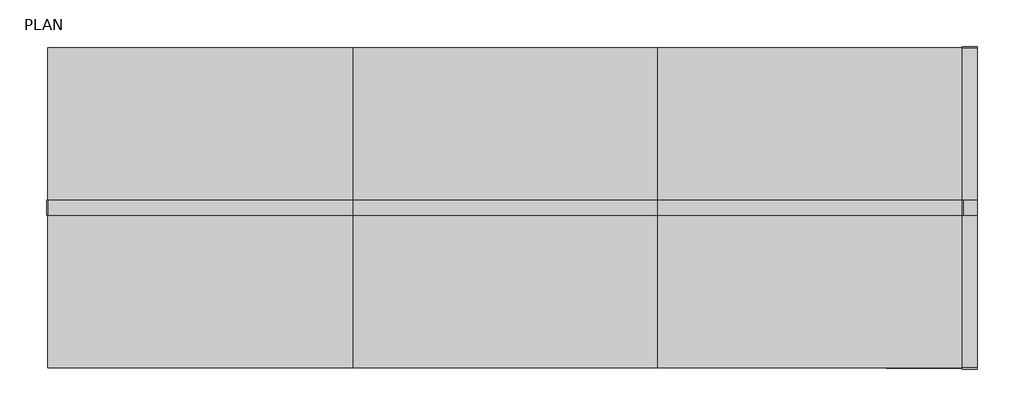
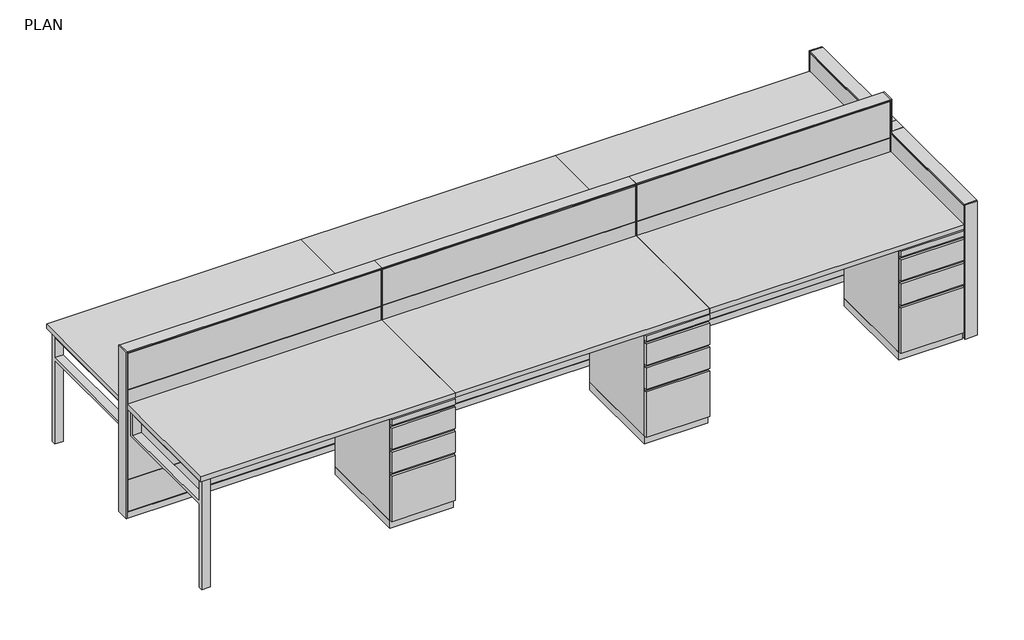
# One storey, incomplete: 18 furniture elements.
"""IFC4 building model written with IfcOpenShell, lengths in millimetres."""

import ifcopenshell
import ifcopenshell.guid

model = None  # the IFC model being written
_history = None  # IfcOwnerHistory: only IFC2X3 demands one
_inside = {}  # id of a spatial element -> (the spatial element, [elements in it])
_under = {}  # id of a project, library or spatial element -> (it, [spatial elements below it])
_declared = {}  # id of a project -> (the project, [libraries it declares])
_typed = {}  # id of a type object -> (the type object, [elements of that type])
_made_of = {}  # id of a material, layer set ... -> (it, [elements and type objects made of it])


def new_model(schema):
    """Start an empty IFC model of exactly this schema.

    Asked for "IFC4X3", IfcOpenShell would pick the latest addendum, in which some entities
    have other attributes; the version numbers below select the first issue.
    IFC2X3 requires an IfcOwnerHistory on every rooted entity: one is made here for all.
    """
    global model, _history
    if schema == "IFC4X3":
        model = ifcopenshell.file(schema_version=(4, 3, 0, 0))
    else:
        model = ifcopenshell.file(schema=schema)
    _inside.clear()
    _under.clear()
    _declared.clear()
    _typed.clear()
    _made_of.clear()
    _history = None
    if model.schema == "IFC2X3":
        org = make("IfcOrganization", Name="unknown")
        user = make(
            "IfcPersonAndOrganization",
            ThePerson=make("IfcPerson", FamilyName="unknown"),
            TheOrganization=org,
        )
        app = make(
            "IfcApplication",
            ApplicationDeveloper=org,
            Version="unknown",
            ApplicationFullName="unknown",
            ApplicationIdentifier="unknown",
        )
        _history = make(
            "IfcOwnerHistory",
            OwningUser=user,
            OwningApplication=app,
            ChangeAction="ADDED",
            CreationDate=0,
        )
    return model


def make(cls, **values):
    """One entity of the class cls with the attributes given. An attribute that is None is left unset."""
    return model.create_entity(
        cls, **{name: value for name, value in values.items() if value is not None}
    )


def rooted(cls, **values):
    """An entity with a GlobalId (a new one), such as an element, a storey or a relation."""
    return make(cls, GlobalId=ifcopenshell.guid.new(), OwnerHistory=_history, **values)


def si_unit(unit_type, name, prefix=None):
    """IfcSIUnit, for example si_unit("LENGTHUNIT", "METRE", prefix="MILLI")."""
    return make("IfcSIUnit", UnitType=unit_type, Prefix=prefix, Name=name)


def assignment(units):
    """IfcUnitAssignment: the units of a project."""
    return None if units is None else make("IfcUnitAssignment", Units=units)


def point(xyz):
    """IfcCartesianPoint."""
    return None if xyz is None else make("IfcCartesianPoint", Coordinates=xyz)


def direction(xyz):
    """IfcDirection."""
    return None if xyz is None else make("IfcDirection", DirectionRatios=xyz)


def frame(location, z_axis=None, x_axis=None):
    """IfcAxis2Placement3D, a coordinate frame: its origin and axes. An axis left out is left unset."""
    return make(
        "IfcAxis2Placement3D",
        Location=point(location),
        Axis=direction(z_axis),
        RefDirection=direction(x_axis),
    )


def frame_2d(location, x_axis=None):
    """IfcAxis2Placement2D, a coordinate frame in the plane: its origin and x axis."""
    return make(
        "IfcAxis2Placement2D", Location=point(location), RefDirection=direction(x_axis)
    )


def origin():
    """The frame at (0, 0, 0) with its axes left unset."""
    return frame((0.0, 0.0, 0.0))


def origin_with_axes():
    """The frame at (0, 0, 0) with the z axis (0, 0, 1) and the x axis (1, 0, 0) written out."""
    return frame((0.0, 0.0, 0.0), z_axis=(0.0, 0.0, 1.0), x_axis=(1.0, 0.0, 0.0))


def place(relative_to, where):
    """IfcLocalPlacement: puts the frame where relative to a parent placement (None: the world)."""
    return make(
        "IfcLocalPlacement", PlacementRelTo=relative_to, RelativePlacement=where
    )


def context(
    kind, dimensions, precision=None, world=None, true_north=None, identifier=None
):
    """IfcGeometricRepresentationContext, for example the 3D "Model" context."""
    return make(
        "IfcGeometricRepresentationContext",
        ContextIdentifier=identifier,
        ContextType=kind,
        CoordinateSpaceDimension=dimensions,
        Precision=precision,
        WorldCoordinateSystem=world,
        TrueNorth=true_north,
    )


def project(units=None, contexts=None):
    """IfcProject with its units and contexts."""
    return rooted(
        "IfcProject",
        Name="project",
        RepresentationContexts=contexts,
        UnitsInContext=assignment(units),
    )


def spatial(cls, under=None, at=None, **own):
    """A site, building, storey or space (cls), placed at a placement, below another one or the project."""
    s = rooted(cls, ObjectPlacement=at, **own)
    if under is not None:
        _under.setdefault(under.id(), (under, []))[1].append(s)
    return s


def polyline(points):
    """IfcPolyline through the points."""
    return make("IfcPolyline", Points=[point(p) for p in points])


def circle_curve(where, radius):
    """IfcCircle in the frame where."""
    return make("IfcCircle", Position=where, Radius=radius)


def trimmed(basis, trim1, trim2, sense, master):
    """IfcTrimmedCurve: the piece of a basis curve between two trims."""
    return make(
        "IfcTrimmedCurve",
        BasisCurve=basis,
        Trim1=trim1,
        Trim2=trim2,
        SenseAgreement=sense,
        MasterRepresentation=master,
    )


def segment(curve, same_sense, transition):
    """IfcCompositeCurveSegment."""
    return make(
        "IfcCompositeCurveSegment",
        Transition=transition,
        SameSense=same_sense,
        ParentCurve=curve,
    )


def composite_curve(segments, self_intersect=None):
    """IfcCompositeCurve: segments joined end to end."""
    return make("IfcCompositeCurve", Segments=segments, SelfIntersect=self_intersect)


def outline(outer, holes=None, kind="AREA"):
    """IfcArbitraryClosedProfileDef: a profile drawn as a closed curve; with holes, ...WithVoids."""
    if holes is None:
        return make("IfcArbitraryClosedProfileDef", ProfileType=kind, OuterCurve=outer)
    return make(
        "IfcArbitraryProfileDefWithVoids",
        ProfileType=kind,
        OuterCurve=outer,
        InnerCurves=holes,
    )


def extrude(swept, where, along, depth):
    """IfcExtrudedAreaSolid: the profile swept, set in the frame where, extruded along a direction by depth."""
    return make(
        "IfcExtrudedAreaSolid",
        SweptArea=swept,
        Position=where,
        ExtrudedDirection=direction(along),
        Depth=depth,
    )


def shape(context_of_items, identifier, shape_type, items):
    """IfcShapeRepresentation: the items that make up one representation, for example the "Body"."""
    return make(
        "IfcShapeRepresentation",
        ContextOfItems=context_of_items,
        RepresentationIdentifier=identifier,
        RepresentationType=shape_type,
        Items=items,
    )


def source(mapping_origin, context_of_items, identifier, shape_type, items):
    """IfcRepresentationMap: a shape defined once, which mapped items show again and again."""
    return make(
        "IfcRepresentationMap",
        MappingOrigin=mapping_origin,
        MappedRepresentation=shape(context_of_items, identifier, shape_type, items),
    )


def transform(
    local_origin,
    x_axis=None,
    y_axis=None,
    z_axis=None,
    scale=None,
    scale2=None,
    scale3=None,
    uniform=True,
):
    """IfcCartesianTransformationOperator3D, or its non-uniform kind. x_axis, y_axis, z_axis: its Axis1, 2, 3."""
    if uniform:
        return make(
            "IfcCartesianTransformationOperator3D",
            Axis1=direction(x_axis),
            Axis2=direction(y_axis),
            LocalOrigin=point(local_origin),
            Scale=scale,
            Axis3=direction(z_axis),
        )
    return make(
        "IfcCartesianTransformationOperator3DnonUniform",
        Axis1=direction(x_axis),
        Axis2=direction(y_axis),
        LocalOrigin=point(local_origin),
        Scale=scale,
        Axis3=direction(z_axis),
        Scale2=scale2,
        Scale3=scale3,
    )


def mapped(mapping_source, mapping_target):
    """IfcMappedItem: shows the shape of a source again, moved by a transform."""
    return make(
        "IfcMappedItem", MappingSource=mapping_source, MappingTarget=mapping_target
    )


def made_of(thing, what):
    """Note that an element or type object is made of a material, layer set ...; save() writes the relation."""
    if what is not None:
        _made_of.setdefault(what.id(), (what, []))[1].append(thing)
    return thing


def element(
    cls,
    number,
    at=None,
    inside=None,
    cuts=None,
    type_object=None,
    material=None,
    context=None,
    identifier="Body",
    shape_type=None,
    held_by="IfcProductDefinitionShape",
    body=None,
    shapes=None,
    **own,
):
    """One element of the class cls, such as IfcWall. Its Tag is "e" and its number.

    at: its placement. inside: the storey or other place that contains it. cuts: it is an
    opening in that element (IfcRelVoidsElement). A single representation is given by context,
    identifier, shape_type and body (its items); several are given by shapes. held_by: the class
    of the entity that holds the representations. save() writes the other relations.
    """
    e = rooted(cls, Tag="e%d" % number, ObjectPlacement=at, **own)
    if body is not None:
        shapes = [shape(context, identifier, shape_type, body)]
    if shapes is not None:
        e.Representation = make(held_by, Representations=shapes)
    if inside is not None:
        _inside.setdefault(inside.id(), (inside, []))[1].append(e)
    if cuts is not None:
        rooted(
            "IfcRelVoidsElement", RelatingBuildingElement=cuts, RelatedOpeningElement=e
        )
    if type_object is not None:
        _typed.setdefault(type_object.id(), (type_object, []))[1].append(e)
    return made_of(e, material)


def aggregate(whole, parts):
    """IfcRelAggregates: a whole, such as a stair, and the parts it consists of."""
    return rooted("IfcRelAggregates", RelatingObject=whole, RelatedObjects=parts)


def save(model, path):
    """Write the relations noted so far, then the file.

    IfcRelAggregates (storeys below a building ...), IfcRelContainedInSpatialStructure (elements
    in a storey), IfcRelDefinesByType, IfcRelAssociatesMaterial and IfcRelDeclares: one each for
    every whole, place, type object, material and project.
    """
    for whole, parts in _under.values():
        aggregate(whole, parts)
    for where, things in _inside.values():
        rooted(
            "IfcRelContainedInSpatialStructure",
            RelatedElements=things,
            RelatingStructure=where,
        )
    for kind, things in _typed.values():
        rooted("IfcRelDefinesByType", RelatedObjects=things, RelatingType=kind)
    for what, things in _made_of.values():
        rooted("IfcRelAssociatesMaterial", RelatedObjects=things, RelatingMaterial=what)
    for by, libraries in _declared.values():
        rooted("IfcRelDeclares", RelatingContext=by, RelatedDefinitions=libraries)
    model.write(path)


def furniture_747a64ef(model_context):
    return source(origin(), model_context, "Body", "SweptSolid", [
        extrude(outline(polyline([(565.15, 358.775), (565.15, 508.0), (571.5, 508.0), (571.5, 493.7125), (584.2, 493.7125), (584.2, 358.775), (565.15, 358.775)])), frame((-190.5, 0.0, 0.0), z_axis=(1.0, 0.0, 0.0), x_axis=(0.0, 1.0, 0.0)), (0.0, 0.0, 1.0), 381.0),
        extrude(outline(polyline([(565.15, 511.175), (565.15, 660.4), (571.5, 660.4), (571.5, 646.1125), (584.2, 646.1125), (584.2, 511.175), (565.15, 511.175)])), frame((-190.5, 0.0, 0.0), z_axis=(1.0, 0.0, 0.0), x_axis=(0.0, 1.0, 0.0)), (0.0, 0.0, 1.0), 381.0),
        extrude(outline(polyline([(565.15, 53.975), (565.15, 355.6), (571.5, 355.6), (571.5, 341.3125), (584.2, 341.3125), (584.2, 53.975), (565.15, 53.975)])), frame((-190.5, 0.0, 0.0), z_axis=(1.0, 0.0, 0.0), x_axis=(0.0, 1.0, 0.0)), (0.0, 0.0, 1.0), 381.0),
        extrude(outline(polyline([(190.5, 0.0), (-190.5, 0.0), (-190.5, 565.15), (190.5, 565.15), (190.5, 0.0)])), origin_with_axes(), (0.0, 0.0, 1.0), 47.625),
        extrude(outline(polyline([(190.5, 584.2), (190.5, 565.15), (-190.5, 565.15), (-190.5, 584.2), (190.5, 584.2)])), frame((0.0, 0.0, 663.575), z_axis=(0.0, 0.0, 1.0), x_axis=(1.0, 0.0, 0.0)), (0.0, 0.0, 1.0), 34.925),
        extrude(outline(polyline([(190.5, 0.0), (-190.5, 0.0), (-190.5, 565.15), (190.5, 565.15), (190.5, 0.0)])), frame((0.0, 0.0, 47.625), z_axis=(0.0, 0.0, 1.0), x_axis=(1.0, 0.0, 0.0)), (0.0, 0.0, 1.0), 650.875),
    ])


def furniture_ff569894(model_context):
    return source(origin(), model_context, "Body", "SweptSolid", [
        extrude(outline(polyline([(-565.15, 358.775), (-584.2, 358.775), (-584.2, 493.7125), (-571.5, 493.7125), (-571.5, 508.0), (-565.15, 508.0), (-565.15, 358.775)])), frame((-190.5, 0.0, 0.0), z_axis=(1.0, 0.0, 0.0), x_axis=(0.0, 1.0, 0.0)), (0.0, 0.0, 1.0), 381.0),
        extrude(outline(polyline([(-565.15, 511.175), (-584.2, 511.175), (-584.2, 646.1125), (-571.5, 646.1125), (-571.5, 660.4), (-565.15, 660.4), (-565.15, 511.175)])), frame((-190.5, 0.0, 0.0), z_axis=(1.0, 0.0, 0.0), x_axis=(0.0, 1.0, 0.0)), (0.0, 0.0, 1.0), 381.0),
        extrude(outline(polyline([(-565.15, 53.975), (-584.2, 53.975), (-584.2, 341.3125), (-571.5, 341.3125), (-571.5, 355.6), (-565.15, 355.6), (-565.15, 53.975)])), frame((-190.5, 0.0, 0.0), z_axis=(1.0, 0.0, 0.0), x_axis=(0.0, 1.0, 0.0)), (0.0, 0.0, 1.0), 381.0),
        extrude(outline(polyline([(190.5, 0.0), (190.5, -565.15), (-190.5, -565.15), (-190.5, 0.0), (190.5, 0.0)])), origin_with_axes(), (0.0, 0.0, 1.0), 47.625),
        extrude(outline(polyline([(190.5, -584.2), (-190.5, -584.2), (-190.5, -565.15), (190.5, -565.15), (190.5, -584.2)])), frame((0.0, 0.0, 663.575), z_axis=(0.0, 0.0, 1.0), x_axis=(1.0, 0.0, 0.0)), (0.0, 0.0, 1.0), 34.925),
        extrude(outline(polyline([(190.5, 0.0), (190.5, -565.15), (-190.5, -565.15), (-190.5, 0.0), (190.5, 0.0)])), frame((0.0, 0.0, 47.625), z_axis=(0.0, 0.0, 1.0), x_axis=(1.0, 0.0, 0.0)), (0.0, 0.0, 1.0), 650.875),
    ])


def furniture_6670dba4(model_context):
    return source(origin(), model_context, "Body", "SweptSolid", [
        extrude(outline(composite_curve([segment(trimmed(circle_curve(frame_2d((-302.3597098, 0.0)), 12.7), [point((-315.0597098, 0.0))], [point((-289.6597098, 0.0))], False, "CARTESIAN"), True, "CONTINUOUS"), segment(trimmed(circle_curve(frame_2d((-302.3597098, 0.0)), 12.7), [point((-289.6597098, 0.0))], [point((-315.0597098, 0.0))], False, "CARTESIAN"), True, "CONTINUOUS")], self_intersect=False)), origin_with_axes(), (0.0, 0.0, 1.0), 12.7),
        extrude(outline(composite_curve([segment(trimmed(circle_curve(frame_2d((307.2402902, 0.0)), 12.7), [point((294.5402902, 0.0))], [point((319.9402902, 0.0))], False, "CARTESIAN"), True, "CONTINUOUS"), segment(trimmed(circle_curve(frame_2d((307.2402902, 0.0)), 12.7), [point((319.9402902, 0.0))], [point((294.5402902, 0.0))], False, "CARTESIAN"), True, "CONTINUOUS")], self_intersect=False)), origin_with_axes(), (0.0, 0.0, 1.0), 12.7),
        extrude(outline(polyline([(-384.9097098, 38.1), (-378.5597098, 38.1), (-378.5597098, -38.1), (-384.9097098, -38.1), (-384.9097098, 38.1)])), frame((0.0, 0.0, 12.7), z_axis=(0.0, 0.0, 1.0), x_axis=(1.0, 0.0, 0.0)), (0.0, 0.0, 1.0), 850.9),
        extrude(outline(polyline([(377.0902902, 38.1), (377.0902902, 25.4), (-372.2097098, 25.4), (-372.2097098, 38.1), (377.0902902, 38.1)])), frame((0.0, 0.0, 53.975), z_axis=(0.0, 0.0, 1.0), x_axis=(1.0, 0.0, 0.0)), (0.0, 0.0, 1.0), 796.925),
        extrude(outline(polyline([(377.0902902, -38.1), (-372.2097098, -38.1), (-372.2097098, -25.4), (377.0902902, -25.4), (377.0902902, -38.1)])), frame((0.0, 0.0, 53.975), z_axis=(0.0, 0.0, 1.0), x_axis=(1.0, 0.0, 0.0)), (0.0, 0.0, 1.0), 796.925),
        extrude(outline(polyline([(383.4402902, 25.4), (383.4402902, -25.4), (-378.5597098, -25.4), (-378.5597098, 25.4), (383.4402902, 25.4)])), frame((0.0, 0.0, 12.7), z_axis=(0.0, 0.0, 1.0), x_axis=(1.0, 0.0, 0.0)), (0.0, 0.0, 1.0), 844.55),
        extrude(outline(polyline([(-378.5597098, -38.1), (-378.5597098, 38.1), (383.4402902, 38.1), (383.4402902, -38.1), (-378.5597098, -38.1)])), frame((0.0, 0.0, 12.7), z_axis=(0.0, 0.0, 1.0), x_axis=(1.0, 0.0, 0.0)), (0.0, 0.0, 1.0), 38.1),
        extrude(outline(polyline([(-378.5597098, -38.1), (-378.5597098, 38.1), (383.4402902, 38.1), (383.4402902, -38.1), (-378.5597098, -38.1)])), frame((0.0, 0.0, 857.25), z_axis=(0.0, 0.0, 1.0), x_axis=(1.0, 0.0, 0.0)), (0.0, 0.0, 1.0), 6.35),
    ])


def furniture_7ad1bea9(model_context):
    return source(origin(), model_context, "Body", "SweptSolid", [
        extrude(outline(composite_curve([segment(trimmed(circle_curve(frame_2d((-302.3597098, 0.0)), 12.7), [point((-315.0597098, 0.0))], [point((-289.6597098, 0.0))], False, "CARTESIAN"), True, "CONTINUOUS"), segment(trimmed(circle_curve(frame_2d((-302.3597098, 0.0)), 12.7), [point((-289.6597098, 0.0))], [point((-315.0597098, 0.0))], False, "CARTESIAN"), True, "CONTINUOUS")], self_intersect=False)), origin_with_axes(), (0.0, 0.0, 1.0), 12.7),
        extrude(outline(composite_curve([segment(trimmed(circle_curve(frame_2d((307.2402902, 0.0)), 12.7), [point((294.5402902, 0.0))], [point((319.9402902, 0.0))], False, "CARTESIAN"), True, "CONTINUOUS"), segment(trimmed(circle_curve(frame_2d((307.2402902, 0.0)), 12.7), [point((319.9402902, 0.0))], [point((294.5402902, 0.0))], False, "CARTESIAN"), True, "CONTINUOUS")], self_intersect=False)), origin_with_axes(), (0.0, 0.0, 1.0), 12.7),
        extrude(outline(polyline([(-384.9097098, -38.1), (-384.9097098, 38.1), (-378.5597098, 38.1), (-378.5597098, -38.1), (-384.9097098, -38.1)])), frame((0.0, 0.0, 12.7), z_axis=(0.0, 0.0, 1.0), x_axis=(1.0, 0.0, 0.0)), (0.0, 0.0, 1.0), 850.9),
        extrude(outline(polyline([(377.0902902, -38.1), (-372.2097098, -38.1), (-372.2097098, -25.4), (377.0902902, -25.4), (377.0902902, -38.1)])), frame((0.0, 0.0, 53.975), z_axis=(0.0, 0.0, 1.0), x_axis=(1.0, 0.0, 0.0)), (0.0, 0.0, 1.0), 796.925),
        extrude(outline(polyline([(377.0902902, 38.1), (377.0902902, 25.4), (-372.2097098, 25.4), (-372.2097098, 38.1), (377.0902902, 38.1)])), frame((0.0, 0.0, 53.975), z_axis=(0.0, 0.0, 1.0), x_axis=(1.0, 0.0, 0.0)), (0.0, 0.0, 1.0), 796.925),
        extrude(outline(polyline([(383.4402902, -25.4), (-378.5597098, -25.4), (-378.5597098, 25.4), (383.4402902, 25.4), (383.4402902, -25.4)])), frame((0.0, 0.0, 12.7), z_axis=(0.0, 0.0, 1.0), x_axis=(1.0, 0.0, 0.0)), (0.0, 0.0, 1.0), 844.55),
        extrude(outline(polyline([(-378.5597098, 38.1), (383.4402902, 38.1), (383.4402902, -38.1), (-378.5597098, -38.1), (-378.5597098, 38.1)])), frame((0.0, 0.0, 12.7), z_axis=(0.0, 0.0, 1.0), x_axis=(1.0, 0.0, 0.0)), (0.0, 0.0, 1.0), 38.1),
        extrude(outline(polyline([(-378.5597098, 38.1), (383.4402902, 38.1), (383.4402902, -38.1), (-378.5597098, -38.1), (-378.5597098, 38.1)])), frame((0.0, 0.0, 857.25), z_axis=(0.0, 0.0, 1.0), x_axis=(1.0, 0.0, 0.0)), (0.0, 0.0, 1.0), 6.35),
    ])


def furniture_aa9343ba(model_context):
    return source(origin(), model_context, "Body", "SweptSolid", [
        extrude(outline(composite_curve([segment(trimmed(circle_curve(frame_2d((-683.3597098, 0.0)), 12.7), [point((-696.0597098, 0.0))], [point((-670.6597098, 0.0))], False, "CARTESIAN"), True, "CONTINUOUS"), segment(trimmed(circle_curve(frame_2d((-683.3597098, 0.0)), 12.7), [point((-670.6597098, 0.0))], [point((-696.0597098, 0.0))], False, "CARTESIAN"), True, "CONTINUOUS")], self_intersect=False)), origin_with_axes(), (0.0, 0.0, 1.0), 12.7),
        extrude(outline(composite_curve([segment(trimmed(circle_curve(frame_2d((688.2402902, 0.0)), 12.7), [point((675.5402902, 0.0))], [point((700.9402902, 0.0))], False, "CARTESIAN"), True, "CONTINUOUS"), segment(trimmed(circle_curve(frame_2d((688.2402902, 0.0)), 12.7), [point((700.9402902, 0.0))], [point((675.5402902, 0.0))], False, "CARTESIAN"), True, "CONTINUOUS")], self_intersect=False)), origin_with_axes(), (0.0, 0.0, 1.0), 12.7),
        extrude(outline(polyline([(758.0902902, 38.1), (758.0902902, 25.4), (-753.2097098, 25.4), (-753.2097098, 38.1), (758.0902902, 38.1)])), frame((0.0, 0.0, 828.675), z_axis=(0.0, 0.0, 1.0), x_axis=(1.0, 0.0, 0.0)), (0.0, 0.0, 1.0), 225.425),
        extrude(outline(polyline([(758.0902902, 38.1), (758.0902902, 25.4), (-753.2097098, 25.4), (-753.2097098, 38.1), (758.0902902, 38.1)])), frame((0.0, 0.0, 257.175), z_axis=(0.0, 0.0, 1.0), x_axis=(1.0, 0.0, 0.0)), (0.0, 0.0, 1.0), 568.325),
        extrude(outline(polyline([(758.0902902, 38.1), (758.0902902, 25.4), (-753.2097098, 25.4), (-753.2097098, 38.1), (758.0902902, 38.1)])), frame((0.0, 0.0, 53.975), z_axis=(0.0, 0.0, 1.0), x_axis=(1.0, 0.0, 0.0)), (0.0, 0.0, 1.0), 200.025),
        extrude(outline(polyline([(758.0902902, -38.1), (-753.2097098, -38.1), (-753.2097098, -25.4), (758.0902902, -25.4), (758.0902902, -38.1)])), frame((0.0, 0.0, 828.675), z_axis=(0.0, 0.0, 1.0), x_axis=(1.0, 0.0, 0.0)), (0.0, 0.0, 1.0), 225.425),
        extrude(outline(polyline([(758.0902902, -38.1), (-753.2097098, -38.1), (-753.2097098, -25.4), (758.0902902, -25.4), (758.0902902, -38.1)])), frame((0.0, 0.0, 257.175), z_axis=(0.0, 0.0, 1.0), x_axis=(1.0, 0.0, 0.0)), (0.0, 0.0, 1.0), 568.325),
        extrude(outline(polyline([(758.0902902, -38.1), (-753.2097098, -38.1), (-753.2097098, -25.4), (758.0902902, -25.4), (758.0902902, -38.1)])), frame((0.0, 0.0, 53.975), z_axis=(0.0, 0.0, 1.0), x_axis=(1.0, 0.0, 0.0)), (0.0, 0.0, 1.0), 200.025),
        extrude(outline(polyline([(764.4402902, 25.4), (764.4402902, -25.4), (-759.5597098, -25.4), (-759.5597098, 25.4), (764.4402902, 25.4)])), frame((0.0, 0.0, 12.7), z_axis=(0.0, 0.0, 1.0), x_axis=(1.0, 0.0, 0.0)), (0.0, 0.0, 1.0), 1047.75),
        extrude(outline(polyline([(-759.5597098, -38.1), (-759.5597098, 38.1), (764.4402902, 38.1), (764.4402902, -38.1), (-759.5597098, -38.1)])), frame((0.0, 0.0, 12.7), z_axis=(0.0, 0.0, 1.0), x_axis=(1.0, 0.0, 0.0)), (0.0, 0.0, 1.0), 38.1),
        extrude(outline(polyline([(-759.5597098, -38.1), (-759.5597098, 38.1), (764.4402902, 38.1), (764.4402902, -38.1), (-759.5597098, -38.1)])), frame((0.0, 0.0, 1060.45), z_axis=(0.0, 0.0, 1.0), x_axis=(1.0, 0.0, 0.0)), (0.0, 0.0, 1.0), 6.35),
    ])


def furniture_3affe85f(model_context):
    return source(origin(), model_context, "Body", "SweptSolid", [
        extrude(outline(composite_curve([segment(trimmed(circle_curve(frame_2d((-683.3597098, 0.0)), 12.7), [point((-696.0597098, 0.0))], [point((-670.6597098, 0.0))], False, "CARTESIAN"), True, "CONTINUOUS"), segment(trimmed(circle_curve(frame_2d((-683.3597098, 0.0)), 12.7), [point((-670.6597098, 0.0))], [point((-696.0597098, 0.0))], False, "CARTESIAN"), True, "CONTINUOUS")], self_intersect=False)), origin_with_axes(), (0.0, 0.0, 1.0), 12.7),
        extrude(outline(composite_curve([segment(trimmed(circle_curve(frame_2d((688.2402902, 0.0)), 12.7), [point((675.5402902, 0.0))], [point((700.9402902, 0.0))], False, "CARTESIAN"), True, "CONTINUOUS"), segment(trimmed(circle_curve(frame_2d((688.2402902, 0.0)), 12.7), [point((700.9402902, 0.0))], [point((675.5402902, 0.0))], False, "CARTESIAN"), True, "CONTINUOUS")], self_intersect=False)), origin_with_axes(), (0.0, 0.0, 1.0), 12.7),
        extrude(outline(polyline([(770.7902902, 38.1), (770.7902902, -38.1), (764.4402902, -38.1), (764.4402902, 38.1), (770.7902902, 38.1)])), frame((0.0, 0.0, 863.6), z_axis=(0.0, 0.0, 1.0), x_axis=(1.0, 0.0, 0.0)), (0.0, 0.0, 1.0), 203.2),
        extrude(outline(polyline([(758.0902902, 38.1), (758.0902902, 25.4), (-753.2097098, 25.4), (-753.2097098, 38.1), (758.0902902, 38.1)])), frame((0.0, 0.0, 828.675), z_axis=(0.0, 0.0, 1.0), x_axis=(1.0, 0.0, 0.0)), (0.0, 0.0, 1.0), 225.425),
        extrude(outline(polyline([(758.0902902, 38.1), (758.0902902, 25.4), (-753.2097098, 25.4), (-753.2097098, 38.1), (758.0902902, 38.1)])), frame((0.0, 0.0, 257.175), z_axis=(0.0, 0.0, 1.0), x_axis=(1.0, 0.0, 0.0)), (0.0, 0.0, 1.0), 568.325),
        extrude(outline(polyline([(758.0902902, 38.1), (758.0902902, 25.4), (-753.2097098, 25.4), (-753.2097098, 38.1), (758.0902902, 38.1)])), frame((0.0, 0.0, 53.975), z_axis=(0.0, 0.0, 1.0), x_axis=(1.0, 0.0, 0.0)), (0.0, 0.0, 1.0), 200.025),
        extrude(outline(polyline([(758.0902902, -38.1), (-753.2097098, -38.1), (-753.2097098, -25.4), (758.0902902, -25.4), (758.0902902, -38.1)])), frame((0.0, 0.0, 828.675), z_axis=(0.0, 0.0, 1.0), x_axis=(1.0, 0.0, 0.0)), (0.0, 0.0, 1.0), 225.425),
        extrude(outline(polyline([(758.0902902, -38.1), (-753.2097098, -38.1), (-753.2097098, -25.4), (758.0902902, -25.4), (758.0902902, -38.1)])), frame((0.0, 0.0, 257.175), z_axis=(0.0, 0.0, 1.0), x_axis=(1.0, 0.0, 0.0)), (0.0, 0.0, 1.0), 568.325),
        extrude(outline(polyline([(758.0902902, -38.1), (-753.2097098, -38.1), (-753.2097098, -25.4), (758.0902902, -25.4), (758.0902902, -38.1)])), frame((0.0, 0.0, 53.975), z_axis=(0.0, 0.0, 1.0), x_axis=(1.0, 0.0, 0.0)), (0.0, 0.0, 1.0), 200.025),
        extrude(outline(polyline([(764.4402902, 25.4), (764.4402902, -25.4), (-759.5597098, -25.4), (-759.5597098, 25.4), (764.4402902, 25.4)])), frame((0.0, 0.0, 12.7), z_axis=(0.0, 0.0, 1.0), x_axis=(1.0, 0.0, 0.0)), (0.0, 0.0, 1.0), 1047.75),
        extrude(outline(polyline([(-759.5597098, -38.1), (-759.5597098, 38.1), (764.4402902, 38.1), (764.4402902, -38.1), (-759.5597098, -38.1)])), frame((0.0, 0.0, 12.7), z_axis=(0.0, 0.0, 1.0), x_axis=(1.0, 0.0, 0.0)), (0.0, 0.0, 1.0), 38.1),
        extrude(outline(polyline([(-759.5597098, -38.1), (-759.5597098, 38.1), (764.4402902, 38.1), (764.4402902, -38.1), (-759.5597098, -38.1)])), frame((0.0, 0.0, 1060.45), z_axis=(0.0, 0.0, 1.0), x_axis=(1.0, 0.0, 0.0)), (0.0, 0.0, 1.0), 6.35),
    ])


def furniture_9dffe39c(model_context):
    return source(origin(), model_context, "Body", "SweptSolid", [
        extrude(outline(composite_curve([segment(trimmed(circle_curve(frame_2d((-683.3597098, 0.0)), 12.7), [point((-696.0597098, 0.0))], [point((-670.6597098, 0.0))], False, "CARTESIAN"), True, "CONTINUOUS"), segment(trimmed(circle_curve(frame_2d((-683.3597098, 0.0)), 12.7), [point((-670.6597098, 0.0))], [point((-696.0597098, 0.0))], False, "CARTESIAN"), True, "CONTINUOUS")], self_intersect=False)), origin_with_axes(), (0.0, 0.0, 1.0), 12.7),
        extrude(outline(composite_curve([segment(trimmed(circle_curve(frame_2d((688.2402902, 0.0)), 12.7), [point((675.5402902, 0.0))], [point((700.9402902, 0.0))], False, "CARTESIAN"), True, "CONTINUOUS"), segment(trimmed(circle_curve(frame_2d((688.2402902, 0.0)), 12.7), [point((700.9402902, 0.0))], [point((675.5402902, 0.0))], False, "CARTESIAN"), True, "CONTINUOUS")], self_intersect=False)), origin_with_axes(), (0.0, 0.0, 1.0), 12.7),
        extrude(outline(polyline([(-765.9097098, 38.1), (-759.5597098, 38.1), (-759.5597098, -38.1), (-765.9097098, -38.1), (-765.9097098, 38.1)])), frame((0.0, 0.0, 12.7), z_axis=(0.0, 0.0, 1.0), x_axis=(1.0, 0.0, 0.0)), (0.0, 0.0, 1.0), 1054.1),
        extrude(outline(polyline([(758.0902902, 38.1), (758.0902902, 25.4), (-753.2097098, 25.4), (-753.2097098, 38.1), (758.0902902, 38.1)])), frame((0.0, 0.0, 828.675), z_axis=(0.0, 0.0, 1.0), x_axis=(1.0, 0.0, 0.0)), (0.0, 0.0, 1.0), 225.425),
        extrude(outline(polyline([(758.0902902, 38.1), (758.0902902, 25.4), (-753.2097098, 25.4), (-753.2097098, 38.1), (758.0902902, 38.1)])), frame((0.0, 0.0, 257.175), z_axis=(0.0, 0.0, 1.0), x_axis=(1.0, 0.0, 0.0)), (0.0, 0.0, 1.0), 568.325),
        extrude(outline(polyline([(758.0902902, 38.1), (758.0902902, 25.4), (-753.2097098, 25.4), (-753.2097098, 38.1), (758.0902902, 38.1)])), frame((0.0, 0.0, 53.975), z_axis=(0.0, 0.0, 1.0), x_axis=(1.0, 0.0, 0.0)), (0.0, 0.0, 1.0), 200.025),
        extrude(outline(polyline([(758.0902902, -38.1), (-753.2097098, -38.1), (-753.2097098, -25.4), (758.0902902, -25.4), (758.0902902, -38.1)])), frame((0.0, 0.0, 828.675), z_axis=(0.0, 0.0, 1.0), x_axis=(1.0, 0.0, 0.0)), (0.0, 0.0, 1.0), 225.425),
        extrude(outline(polyline([(758.0902902, -38.1), (-753.2097098, -38.1), (-753.2097098, -25.4), (758.0902902, -25.4), (758.0902902, -38.1)])), frame((0.0, 0.0, 257.175), z_axis=(0.0, 0.0, 1.0), x_axis=(1.0, 0.0, 0.0)), (0.0, 0.0, 1.0), 568.325),
        extrude(outline(polyline([(758.0902902, -38.1), (-753.2097098, -38.1), (-753.2097098, -25.4), (758.0902902, -25.4), (758.0902902, -38.1)])), frame((0.0, 0.0, 53.975), z_axis=(0.0, 0.0, 1.0), x_axis=(1.0, 0.0, 0.0)), (0.0, 0.0, 1.0), 200.025),
        extrude(outline(polyline([(764.4402902, 25.4), (764.4402902, -25.4), (-759.5597098, -25.4), (-759.5597098, 25.4), (764.4402902, 25.4)])), frame((0.0, 0.0, 12.7), z_axis=(0.0, 0.0, 1.0), x_axis=(1.0, 0.0, 0.0)), (0.0, 0.0, 1.0), 1047.75),
        extrude(outline(polyline([(-759.5597098, -38.1), (-759.5597098, 38.1), (764.4402902, 38.1), (764.4402902, -38.1), (-759.5597098, -38.1)])), frame((0.0, 0.0, 12.7), z_axis=(0.0, 0.0, 1.0), x_axis=(1.0, 0.0, 0.0)), (0.0, 0.0, 1.0), 38.1),
        extrude(outline(polyline([(-759.5597098, -38.1), (-759.5597098, 38.1), (764.4402902, 38.1), (764.4402902, -38.1), (-759.5597098, -38.1)])), frame((0.0, 0.0, 1060.45), z_axis=(0.0, 0.0, 1.0), x_axis=(1.0, 0.0, 0.0)), (0.0, 0.0, 1.0), 6.35),
    ])


def furniture_7622e100(model_context):
    return source(origin(), model_context, "Body", "SweptSolid", [
        extrude(outline(polyline([(0.0, 38.1), (76.2, 38.1), (76.2, -38.1), (0.0, -38.1), (0.0, 38.1)])), frame((0.0, 0.0, 857.25), z_axis=(0.0, 0.0, 1.0), x_axis=(1.0, 0.0, 0.0)), (0.0, 0.0, 1.0), 6.35),
        extrude(outline(polyline([(76.2, 38.1), (76.2, -38.1), (0.0, -38.1), (0.0, 38.1), (76.2, 38.1)])), frame((0.0, 0.0, 12.7), z_axis=(0.0, 0.0, 1.0), x_axis=(1.0, 0.0, 0.0)), (0.0, 0.0, 1.0), 844.55),
    ])


def haworth_worksurface_compose_rectangular_7adb6efa(model_context):
    return source(origin(), model_context, "Body", "SweptSolid", [
        extrude(outline(polyline([(762.0, 381.0), (762.0, -381.0), (-762.0, -381.0), (-762.0, 381.0), (762.0, 381.0)])), frame((0.0, 0.0, 706.4375), z_axis=(0.0, 0.0, 1.0), x_axis=(1.0, 0.0, 0.0)), (0.0, 0.0, 1.0), 30.1625),
    ])


def haworth_worksurface_compose_rectangular_0a25eb7b(model_context):
    return source(origin(), model_context, "Body", "SweptSolid", [
        extrude(outline(polyline([(-701.675, 355.6), (-701.675, -330.2), (-733.425, -330.2), (-733.425, 355.6), (-701.675, 355.6)])), frame((0.0, 0.0, 661.9875), z_axis=(0.0, 0.0, 1.0), x_axis=(1.0, 0.0, 0.0)), (0.0, 0.0, 1.0), 44.45),
        extrude(outline(polyline([(-330.2, 528.6375), (-330.2, 0.0), (-355.6, 0.0), (-355.6, 706.4375), (-330.2, 706.4375), (-330.2, 547.6875), (355.6, 547.6875), (355.6, 706.4375), (381.0, 706.4375), (381.0, 528.6375), (-330.2, 528.6375)])), frame((-742.95, 0.0, 0.0), z_axis=(1.0, 0.0, 0.0), x_axis=(0.0, 1.0, 0.0)), (0.0, 0.0, 1.0), 50.8),
        extrude(outline(polyline([(762.0, 381.0), (762.0, -381.0), (-762.0, -381.0), (-762.0, 381.0), (762.0, 381.0)])), frame((0.0, 0.0, 706.4375), z_axis=(0.0, 0.0, 1.0), x_axis=(1.0, 0.0, 0.0)), (0.0, 0.0, 1.0), 30.1625),
    ])


def haworth_worksurface_compose_rectangular_3adcce5d(model_context):
    return source(origin(), model_context, "Body", "SweptSolid", [
        extrude(outline(polyline([(-701.675, -355.6), (-733.425, -355.6), (-733.425, 330.2), (-701.675, 330.2), (-701.675, -355.6)])), frame((0.0, 0.0, 661.9875), z_axis=(0.0, 0.0, 1.0), x_axis=(1.0, 0.0, 0.0)), (0.0, 0.0, 1.0), 44.45),
        extrude(outline(polyline([(330.2, 528.6375), (-381.0, 528.6375), (-381.0, 706.4375), (-355.6, 706.4375), (-355.6, 547.6875), (330.2, 547.6875), (330.2, 706.4375), (355.6, 706.4375), (355.6, 0.0), (330.2, 0.0), (330.2, 528.6375)])), frame((-742.95, 0.0, 0.0), z_axis=(1.0, 0.0, 0.0), x_axis=(0.0, 1.0, 0.0)), (0.0, 0.0, 1.0), 50.8),
        extrude(outline(polyline([(762.0, -381.0), (-762.0, -381.0), (-762.0, 381.0), (762.0, 381.0), (762.0, -381.0)])), frame((0.0, 0.0, 706.4375), z_axis=(0.0, 0.0, 1.0), x_axis=(1.0, 0.0, 0.0)), (0.0, 0.0, 1.0), 30.1625),
    ])


model = new_model("IFC4")

# Units and contexts
model_context = context("Model", 3, world=origin())
ifc_project = project(units=[si_unit("LENGTHUNIT", "METRE", prefix="MILLI")], contexts=[model_context])

# Site, building, storey
site = spatial("IfcSite", under=ifc_project)
building = spatial("IfcBuilding", under=site)
storey = spatial("IfcBuildingStorey", under=building, Name="PLAN", Elevation=30480.0)

# Furniture
placement = place(None, origin())
furniture_shape = furniture_747a64ef(model_context)
element("IfcFurniture", 1, ObjectType="Haworth_XSeries-Mobile_Pedestal : Box/Box/File 23\" Depth", at=placement, inside=storey, context=model_context, shape_type="MappedRepresentation", body=[
    mapped(furniture_shape, transform((-23385.0649372, -48243.7025493, 30480.0), x_axis=(1.0, 0.0, 0.0), y_axis=(0.0, 1.0, 0.0), z_axis=(0.0, 0.0, 1.0))),
])
element("IfcFurniture", 2, ObjectType="Haworth_XSeries-Mobile_Pedestal : Box/Box/File 23\" Depth", at=placement, inside=storey, context=model_context, shape_type="MappedRepresentation", body=[
    mapped(furniture_shape, transform((-21861.0649372, -48243.7025493, 30480.0), x_axis=(1.0, 0.0, 0.0), y_axis=(0.0, 1.0, 0.0), z_axis=(0.0, 0.0, 1.0))),
])
element("IfcFurniture", 3, ObjectType="Haworth_XSeries-Mobile_Pedestal : Box/Box/File 23\" Depth", at=placement, inside=storey, context=model_context, shape_type="MappedRepresentation", body=[
    mapped(furniture_shape, transform((-20337.0649372, -48243.7025493, 30480.0), x_axis=(1.0, 0.0, 0.0), y_axis=(0.0, 1.0, 0.0), z_axis=(0.0, 0.0, 1.0))),
])
furniture_2_shape = furniture_ff569894(model_context)
element("IfcFurniture", 4, ObjectType="Haworth_XSeries-Mobile_Pedestal : Box/Box/File 23\" Depth", at=placement, inside=storey, context=model_context, shape_type="MappedRepresentation", body=[
    mapped(furniture_2_shape, transform((-23385.0649372, -48675.5025493, 30480.0), x_axis=(1.0, 0.0, 0.0), y_axis=(0.0, 1.0, 0.0), z_axis=(0.0, 0.0, 1.0))),
])
element("IfcFurniture", 5, ObjectType="Haworth_XSeries-Mobile_Pedestal : Box/Box/File 23\" Depth", at=placement, inside=storey, context=model_context, shape_type="MappedRepresentation", body=[
    mapped(furniture_2_shape, transform((-21861.0649372, -48675.5025493, 30480.0), x_axis=(1.0, 0.0, 0.0), y_axis=(0.0, 1.0, 0.0), z_axis=(0.0, 0.0, 1.0))),
])
element("IfcFurniture", 6, ObjectType="Haworth_XSeries-Mobile_Pedestal : Box/Box/File 23\" Depth", at=placement, inside=storey, context=model_context, shape_type="MappedRepresentation", body=[
    mapped(furniture_2_shape, transform((-20337.0649372, -48676.7040683, 30480.0), x_axis=(1.0, 0.0, 0.0), y_axis=(0.0, 1.0, 0.0), z_axis=(0.0, 0.0, 1.0))),
])
furniture_3_shape = furniture_6670dba4(model_context)
element("IfcFurniture", 7, ObjectType="Haworth_Compose-Panel-Solid : 34\" x 30\"", at=placement, inside=storey, context=model_context, shape_type="MappedRepresentation", body=[
    mapped(furniture_3_shape, transform((-20108.4649372, -48881.1428395, 30480.0), x_axis=(0.0, 1.0, 0.0), y_axis=(-1.0, 0.0, 0.0), z_axis=(0.0, 0.0, 1.0))),
])
furniture_4_shape = furniture_7ad1bea9(model_context)
element("IfcFurniture", 8, ObjectType="Haworth_Compose-Panel-Solid : 34\" x 30\"", at=placement, inside=storey, context=model_context, shape_type="MappedRepresentation", body=[
    mapped(furniture_4_shape, transform((-20108.4649372, -48038.0622592, 30480.0), x_axis=(0.0, -1.0, 0.0), y_axis=(1.0, 0.0, 0.0), z_axis=(0.0, 0.0, 1.0))),
])
furniture_5_shape = furniture_aa9343ba(model_context)
element("IfcFurniture", 9, ObjectType="Haworth_Compose-Panel-Solid : 42\" x 60\"", at=placement, inside=storey, context=model_context, shape_type="MappedRepresentation", body=[
    mapped(furniture_5_shape, transform((-22435.0052273, -48459.6025493, 30480.0), x_axis=(1.0, 0.0, 0.0), y_axis=(0.0, 1.0, 0.0), z_axis=(0.0, 0.0, 1.0))),
])
furniture_6_shape = furniture_3affe85f(model_context)
element("IfcFurniture", 10, ObjectType="Haworth_Compose-Panel-Solid : 42\" x 60\"", at=placement, inside=storey, context=model_context, shape_type="MappedRepresentation", body=[
    mapped(furniture_6_shape, transform((-20911.0052273, -48459.6025493, 30480.0), x_axis=(1.0, 0.0, 0.0), y_axis=(0.0, 1.0, 0.0), z_axis=(0.0, 0.0, 1.0))),
])
furniture_7_shape = furniture_9dffe39c(model_context)
element("IfcFurniture", 11, ObjectType="Haworth_Compose-Panel-Solid : 42\" x 60\" Slat Top", at=placement, inside=storey, context=model_context, shape_type="MappedRepresentation", body=[
    mapped(furniture_7_shape, transform((-23959.0052273, -48459.6025493, 30480.0), x_axis=(1.0, 0.0, 0.0), y_axis=(0.0, 1.0, 0.0), z_axis=(0.0, 0.0, 1.0))),
])
furniture_8_shape = furniture_7622e100(model_context)
element("IfcFurniture", 12, ObjectType="Haworth_Compose-Panel_Accessories-Post : 34\" High - 3-Way Intersection", at=placement, inside=storey, context=model_context, shape_type="MappedRepresentation", body=[
    mapped(furniture_8_shape, transform((-20146.5649372, -48459.6025493, 30480.0), x_axis=(1.0, 0.0, 0.0), y_axis=(0.0, 1.0, 0.0), z_axis=(0.0, 0.0, 1.0))),
])
haworth_worksurface_compose_rectangular_shape = haworth_worksurface_compose_rectangular_7adb6efa(model_context)
element("IfcFurniture", 13, ObjectType="Haworth_Worksurface_Compose-Rectangular : 30'' x 60''", at=placement, inside=storey, context=model_context, shape_type="MappedRepresentation", body=[
    mapped(haworth_worksurface_compose_rectangular_shape, transform((-20908.5649372, -48040.5025493, 30480.0), x_axis=(1.0, 0.0, 0.0), y_axis=(0.0, 1.0, 0.0), z_axis=(0.0, 0.0, 1.0))),
])
element("IfcFurniture", 14, ObjectType="Haworth_Worksurface_Compose-Rectangular : 30'' x 60''", at=placement, inside=storey, context=model_context, shape_type="MappedRepresentation", body=[
    mapped(haworth_worksurface_compose_rectangular_shape, transform((-22432.5649372, -48878.7025493, 30480.0), x_axis=(1.0, 0.0, 0.0), y_axis=(0.0, 1.0, 0.0), z_axis=(0.0, 0.0, 1.0))),
])
element("IfcFurniture", 15, ObjectType="Haworth_Worksurface_Compose-Rectangular : 30'' x 60''", at=placement, inside=storey, context=model_context, shape_type="MappedRepresentation", body=[
    mapped(haworth_worksurface_compose_rectangular_shape, transform((-20908.5649372, -48878.7025493, 30480.0), x_axis=(1.0, 0.0, 0.0), y_axis=(0.0, 1.0, 0.0), z_axis=(0.0, 0.0, 1.0))),
])
element("IfcFurniture", 16, ObjectType="Haworth_Worksurface_Compose-Rectangular : 30'' x 60''", at=placement, inside=storey, context=model_context, shape_type="MappedRepresentation", body=[
    mapped(haworth_worksurface_compose_rectangular_shape, transform((-22432.5649372, -48040.5025493, 30480.0), x_axis=(1.0, 0.0, 0.0), y_axis=(0.0, 1.0, 0.0), z_axis=(0.0, 0.0, 1.0))),
])
haworth_worksurface_compose_rectangular_2_shape = haworth_worksurface_compose_rectangular_0a25eb7b(model_context)
element("IfcFurniture", 17, ObjectType="Haworth_Worksurface_Compose-Rectangular : 30'' x 60''", at=placement, inside=storey, context=model_context, shape_type="MappedRepresentation", body=[
    mapped(haworth_worksurface_compose_rectangular_2_shape, transform((-23956.5649372, -48878.7025493, 30480.0), x_axis=(1.0, 0.0, 0.0), y_axis=(0.0, 1.0, 0.0), z_axis=(0.0, 0.0, 1.0))),
])
haworth_worksurface_compose_rectangular_3_shape = haworth_worksurface_compose_rectangular_3adcce5d(model_context)
element("IfcFurniture", 18, ObjectType="Haworth_Worksurface_Compose-Rectangular : 30'' x 60''", at=placement, inside=storey, context=model_context, shape_type="MappedRepresentation", body=[
    mapped(haworth_worksurface_compose_rectangular_3_shape, transform((-23956.5649372, -48040.5025493, 30480.0), x_axis=(1.0, 0.0, 0.0), y_axis=(0.0, 1.0, 0.0), z_axis=(0.0, 0.0, 1.0))),
])

save(model, "model.ifc")
